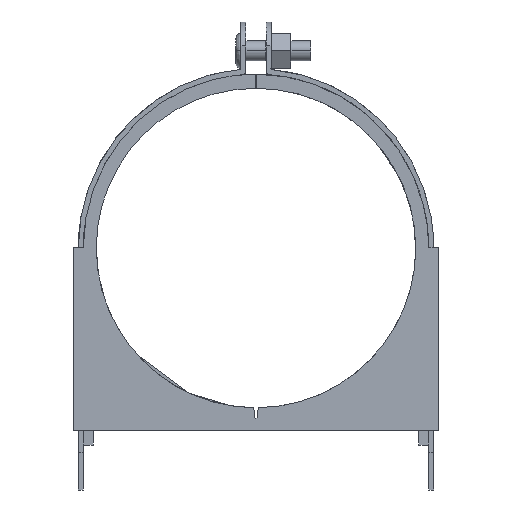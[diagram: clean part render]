
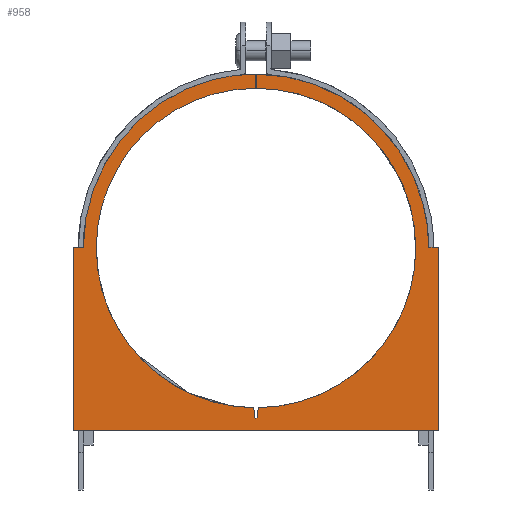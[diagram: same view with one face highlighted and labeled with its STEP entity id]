
A CAD part, front view. The second image highlights one B-rep face of the part: STEP entity #958.
In plain terms, the highlighted planar face has unit normal (0, -1, 0).
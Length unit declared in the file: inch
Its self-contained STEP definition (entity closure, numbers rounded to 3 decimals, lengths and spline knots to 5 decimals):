
#958=ADVANCED_FACE('',(#1888),#1889,.T.);
#1888=FACE_OUTER_BOUND('',#3656,.T.);
#1889=PLANE('',#3657);
#3656=EDGE_LOOP('',(#5137,#5138,#5139,#5140,#5141,#5142,#5143,#5144,#5145,#5146,#5147,#5148,#5149,#5150,#5151,#5152,#5153));
#3657=AXIS2_PLACEMENT_3D('',#5154,#5155,#5156);
#5137=ORIENTED_EDGE('',*,*,#5608,.F.);
#5138=ORIENTED_EDGE('',*,*,#5542,.F.);
#5139=ORIENTED_EDGE('',*,*,#5597,.F.);
#5140=ORIENTED_EDGE('',*,*,#5537,.F.);
#5141=ORIENTED_EDGE('',*,*,#5594,.F.);
#5142=ORIENTED_EDGE('',*,*,#5571,.F.);
#5143=ORIENTED_EDGE('',*,*,#5508,.F.);
#5144=ORIENTED_EDGE('',*,*,#5612,.F.);
#5145=ORIENTED_EDGE('',*,*,#5599,.F.);
#5146=ORIENTED_EDGE('',*,*,#5621,.F.);
#5147=ORIENTED_EDGE('',*,*,#5562,.F.);
#5148=ORIENTED_EDGE('',*,*,#5258,.F.);
#5149=ORIENTED_EDGE('',*,*,#5622,.F.);
#5150=ORIENTED_EDGE('',*,*,#5287,.F.);
#5151=ORIENTED_EDGE('',*,*,#5445,.F.);
#5152=ORIENTED_EDGE('',*,*,#5583,.F.);
#5153=ORIENTED_EDGE('',*,*,#5567,.F.);
#5154=CARTESIAN_POINT('',(2.22494,-0.125,2.81955));
#5155=DIRECTION('',(0.0,-1.0,0.0));
#5156=DIRECTION('',(1.0,0.0,0.0));
#5258=EDGE_CURVE('',#5647,#5648,#5649,.T.);
#5287=EDGE_CURVE('',#5696,#5697,#5698,.T.);
#5445=EDGE_CURVE('',#5935,#5696,#5936,.T.);
#5508=EDGE_CURVE('',#6014,#6015,#6016,.T.);
#5537=EDGE_CURVE('',#6051,#6052,#6053,.T.);
#5542=EDGE_CURVE('',#6058,#6059,#6060,.T.);
#5562=EDGE_CURVE('',#5648,#6082,#6083,.T.);
#5567=EDGE_CURVE('',#6088,#6089,#6090,.T.);
#5571=EDGE_CURVE('',#6015,#6094,#6095,.T.);
#5583=EDGE_CURVE('',#6089,#5935,#6107,.T.);
#5594=EDGE_CURVE('',#6094,#6051,#6118,.T.);
#5597=EDGE_CURVE('',#6052,#6058,#6121,.T.);
#5599=EDGE_CURVE('',#6123,#6124,#6125,.T.);
#5608=EDGE_CURVE('',#6059,#6088,#6134,.T.);
#5612=EDGE_CURVE('',#6124,#6014,#6138,.T.);
#5621=EDGE_CURVE('',#6082,#6123,#6147,.T.);
#5622=EDGE_CURVE('',#5697,#5647,#6148,.T.);
#5647=VERTEX_POINT('',#6183);
#5648=VERTEX_POINT('',#6184);
#5649=LINE('',#6185,#6186);
#5696=VERTEX_POINT('',#6283);
#5697=VERTEX_POINT('',#6284);
#5698=LINE('',#6285,#6286);
#5935=VERTEX_POINT('',#6746);
#5936=LINE('',#6747,#6748);
#6014=VERTEX_POINT('',#6915);
#6015=VERTEX_POINT('',#6916);
#6016=LINE('',#6917,#6918);
#6051=VERTEX_POINT('',#6976);
#6052=VERTEX_POINT('',#6977);
#6053=B_SPLINE_CURVE_WITH_KNOTS('',3,(#6978,#6979,#6980,#6981),.UNSPECIFIED.,.F.,.F.,(4,4),(0.0,1.0),.UNSPECIFIED.);
#6058=VERTEX_POINT('',#6988);
#6059=VERTEX_POINT('',#6989);
#6060=B_SPLINE_CURVE_WITH_KNOTS('',3,(#6990,#6991,#6992,#6993),.UNSPECIFIED.,.F.,.F.,(4,4),(0.0,1.0),.UNSPECIFIED.);
#6082=VERTEX_POINT('',#7041);
#6083=B_SPLINE_CURVE_WITH_KNOTS('',3,(#7042,#7043,#7044,#7045),.UNSPECIFIED.,.F.,.F.,(4,4),(0.0,1.0),.UNSPECIFIED.);
#6088=VERTEX_POINT('',#7051);
#6089=VERTEX_POINT('',#7052);
#6090=LINE('',#7053,#7054);
#6094=VERTEX_POINT('',#7060);
#6095=LINE('',#7061,#7062);
#6107=LINE('',#7082,#7083);
#6118=B_SPLINE_CURVE_WITH_KNOTS('',3,(#7098,#7099,#7100,#7101),.UNSPECIFIED.,.F.,.F.,(4,4),(0.0,1.0),.UNSPECIFIED.);
#6121=LINE('',#7104,#7105);
#6123=VERTEX_POINT('',#7107);
#6124=VERTEX_POINT('',#7108);
#6125=LINE('',#7109,#7110);
#6134=LINE('',#7121,#7122);
#6138=LINE('',#7126,#7127);
#6147=B_SPLINE_CURVE_WITH_KNOTS('',3,(#7137,#7138,#7139,#7140),.UNSPECIFIED.,.F.,.F.,(4,4),(0.0,1.0),.UNSPECIFIED.);
#6148=B_SPLINE_CURVE_WITH_KNOTS('',3,(#7141,#7142,#7143,#7144),.UNSPECIFIED.,.F.,.F.,(4,4),(0.0,1.0),.UNSPECIFIED.);
#6183=CARTESIAN_POINT('',(2.21958,-0.125,5.20729));
#6184=CARTESIAN_POINT('',(2.21958,-0.125,5.02955));
#6185=CARTESIAN_POINT('',(2.21958,-0.125,5.20729));
#6186=VECTOR('',#7158,1.0);
#6283=CARTESIAN_POINT('',(-0.06256,-0.125,3.04131));
#6284=CARTESIAN_POINT('',(0.06297,-0.125,3.04125));
#6285=CARTESIAN_POINT('',(-0.06256,-0.125,3.04131));
#6286=VECTOR('',#7176,1.0);
#6746=CARTESIAN_POINT('',(-0.06256,-0.125,0.74982));
#6747=CARTESIAN_POINT('',(-0.06256,-0.125,0.74982));
#6748=VECTOR('',#7250,1.0);
#6915=CARTESIAN_POINT('',(2.22498,-0.125,0.89826));
#6916=CARTESIAN_POINT('',(2.24141,-0.125,0.90272));
#6917=CARTESIAN_POINT('',(2.22498,-0.125,0.89826));
#6918=VECTOR('',#7277,1.);
#6976=CARTESIAN_POINT('',(4.22498,-0.125,3.02977));
#6977=CARTESIAN_POINT('',(2.23106,-0.125,5.02955));
#6978=CARTESIAN_POINT('',(4.22498,-0.125,3.02977));
#6979=CARTESIAN_POINT('',(4.22498,-0.125,4.13231));
#6980=CARTESIAN_POINT('',(3.33283,-0.125,5.02628));
#6981=CARTESIAN_POINT('',(2.23106,-0.125,5.02955));
#6988=CARTESIAN_POINT('',(2.2309,-0.125,5.20729));
#6989=CARTESIAN_POINT('',(4.3874,-0.125,3.04125));
#6990=CARTESIAN_POINT('',(2.2309,-0.125,5.20729));
#6991=CARTESIAN_POINT('',(3.41909,-0.125,5.20357));
#6992=CARTESIAN_POINT('',(4.38184,-0.125,4.22907));
#6993=CARTESIAN_POINT('',(4.3874,-0.125,3.04125));
#7041=CARTESIAN_POINT('',(0.22498,-0.125,3.02977));
#7042=CARTESIAN_POINT('',(2.21958,-0.125,5.02955));
#7043=CARTESIAN_POINT('',(1.11751,-0.125,5.02663));
#7044=CARTESIAN_POINT('',(0.22498,-0.125,4.13253));
#7045=CARTESIAN_POINT('',(0.22498,-0.125,3.02977));
#7051=CARTESIAN_POINT('',(4.51253,-0.125,3.04131));
#7052=CARTESIAN_POINT('',(4.51253,-0.125,0.74982));
#7053=CARTESIAN_POINT('',(4.51253,-0.125,3.04131));
#7054=VECTOR('',#7300,1.0);
#7060=CARTESIAN_POINT('',(2.25309,-0.125,1.02987));
#7061=CARTESIAN_POINT('',(2.24141,-0.125,0.90272));
#7062=VECTOR('',#7303,1.);
#7082=CARTESIAN_POINT('',(4.51253,-0.125,0.74982));
#7083=VECTOR('',#7306,1.0);
#7098=CARTESIAN_POINT('',(2.25309,-0.125,1.02987));
#7099=CARTESIAN_POINT('',(3.34476,-0.125,1.04483));
#7100=CARTESIAN_POINT('',(4.22498,-0.125,1.93454));
#7101=CARTESIAN_POINT('',(4.22498,-0.125,3.02977));
#7104=CARTESIAN_POINT('',(2.23106,-0.125,5.02955));
#7105=VECTOR('',#7311,1.0);
#7107=CARTESIAN_POINT('',(2.19619,-0.125,1.02988));
#7108=CARTESIAN_POINT('',(2.21009,-0.125,0.90272));
#7109=CARTESIAN_POINT('',(2.19619,-0.125,1.02988));
#7110=VECTOR('',#7312,1.0);
#7121=CARTESIAN_POINT('',(4.3874,-0.125,3.04125));
#7122=VECTOR('',#7315,1.);
#7126=CARTESIAN_POINT('',(2.21009,-0.125,0.90272));
#7127=VECTOR('',#7316,1.0);
#7137=CARTESIAN_POINT('',(0.22498,-0.125,3.02977));
#7138=CARTESIAN_POINT('',(0.22498,-0.125,1.93483));
#7139=CARTESIAN_POINT('',(1.10493,-0.125,1.04532));
#7140=CARTESIAN_POINT('',(2.19619,-0.125,1.02988));
#7141=CARTESIAN_POINT('',(0.06297,-0.125,3.04125));
#7142=CARTESIAN_POINT('',(0.06852,-0.125,4.22994));
#7143=CARTESIAN_POINT('',(1.03023,-0.125,5.20496));
#7144=CARTESIAN_POINT('',(2.21958,-0.125,5.20729));
#7158=DIRECTION('',(0.0,0.0,-1.0));
#7176=DIRECTION('',(1.,0.0,-0.001));
#7250=DIRECTION('',(0.0,0.0,1.0));
#7277=DIRECTION('',(0.965,0.0,0.262));
#7300=DIRECTION('',(0.0,0.0,-1.0));
#7303=DIRECTION('',(0.091,0.0,0.996));
#7306=DIRECTION('',(-1.0,0.0,0.0));
#7311=DIRECTION('',(-0.001,0.0,1.));
#7312=DIRECTION('',(0.109,0.0,-0.994));
#7315=DIRECTION('',(1.,0.0,0.001));
#7316=DIRECTION('',(0.958,0.0,-0.287));
